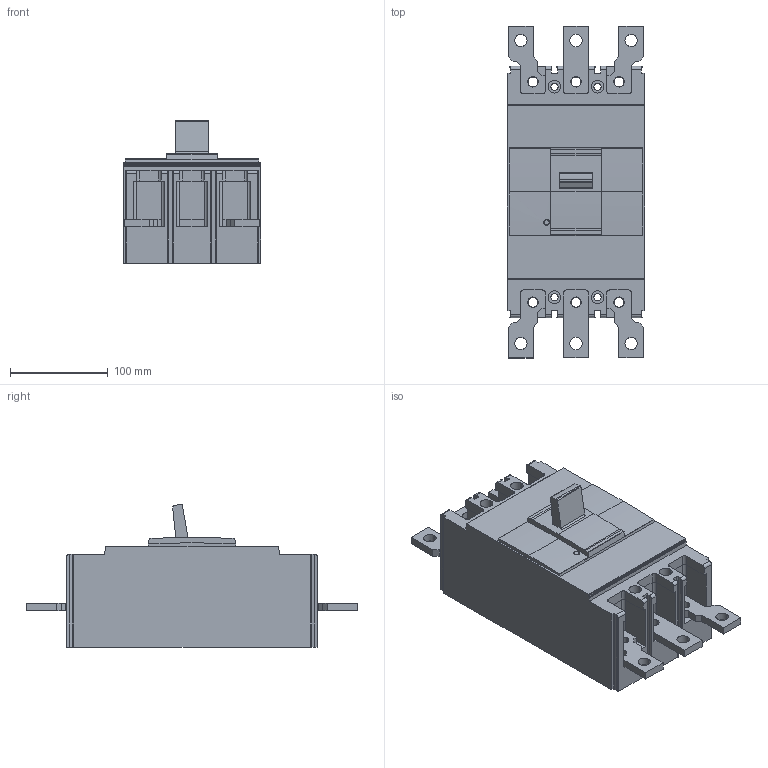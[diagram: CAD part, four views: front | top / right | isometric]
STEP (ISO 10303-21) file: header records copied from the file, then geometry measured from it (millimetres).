
FILE_DESCRIPTION (( 'STEP AP203' ), '1' );
FILE_NAME ('SMART 400AF 3P.STEP', '2018-01-04T00:43:41', ( '' ), ( '' ), 'SwSTEP 2.0', 'SolidWorks 2015', '' );
FILE_SCHEMA (( 'CONFIG_CONTROL_DESIGN' ));
Length unit declared in the file: millimetre
Products named in the file (1): SMART 400AF 3P
Bounding box: 140 x 339 x 145.46 mm (x, y, z)
Volume: 3376058.5 mm3; surface area: 231874.3 mm2
Topology: 7 solids, 7 shells, 359 faces, 1024 edges, 687 vertices
Faces by surface type: plane 199, cylinder 136, bspline 24
Entity records: 12671 total; most frequent: CARTESIAN_POINT 3127, ORIENTED_EDGE 2048, DIRECTION 1852, EDGE_CURVE 1024, LINE 704, VECTOR 704, VERTEX_POINT 687, AXIS2_PLACEMENT_3D 574
